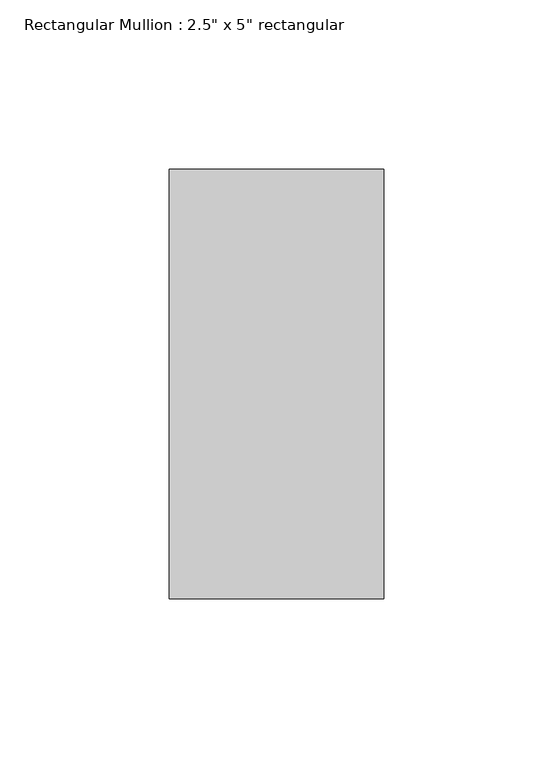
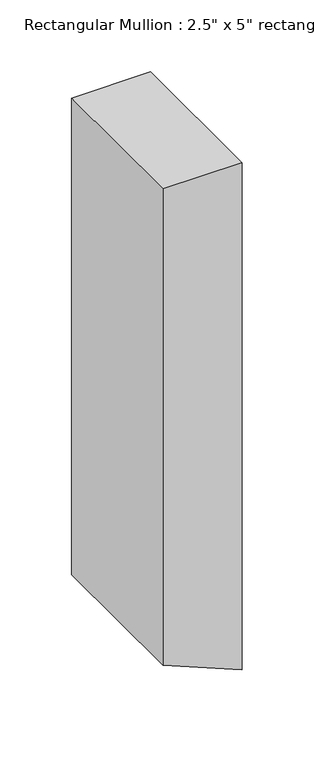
"""IFC4 building model written with IfcOpenShell, lengths in millimetres: member geometry."""

from ifc_helpers import new_model, si_unit, frame, origin, place, context, project, spatial, polyline, outline, extrude, source, transform, mapped, element, save


def member_bd1027ee(model_context):
    return source(origin(), model_context, "Body", "SweptSolid", [
        extrude(outline(polyline([(0.0, 0.0), (0.0, -63.5), (-404.7497323, -63.5), (-431.0522935, 0.0), (0.0, 0.0)])), frame((0.0, -63.5, 0.0), z_axis=(0.0, 1.0, 0.0), x_axis=(0.0, 0.0, 1.0)), (0.0, 0.0, 1.0), 127.0),
    ])


if __name__ == "__main__":
    model = new_model("IFC4")
    model_context = context("Model", 3, world=origin())
    ifc_project = project(units=[si_unit("LENGTHUNIT", "METRE", prefix="MILLI")], contexts=[model_context])
    site = spatial("IfcSite", under=ifc_project)
    building = spatial("IfcBuilding", under=site)
    placement = place(None, origin())
    member_shape = member_bd1027ee(model_context)
    element("IfcMember", 1, ObjectType="Rectangular Mullion : 2.5\" x 5\" rectangular", at=placement, inside=building, context=model_context, shape_type="MappedRepresentation", body=[
        mapped(member_shape, transform((0.0, 0.0, 0.0), x_axis=(1.0, 0.0, 0.0), y_axis=(0.0, 1.0, 0.0), z_axis=(0.0, 0.0, 1.0))),
    ])
    save(model, "model.ifc")
